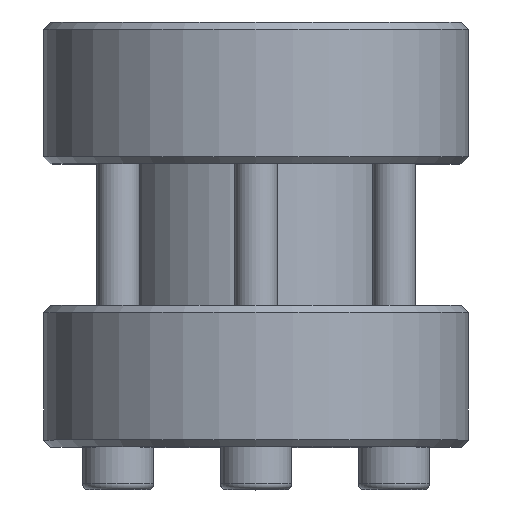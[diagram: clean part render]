
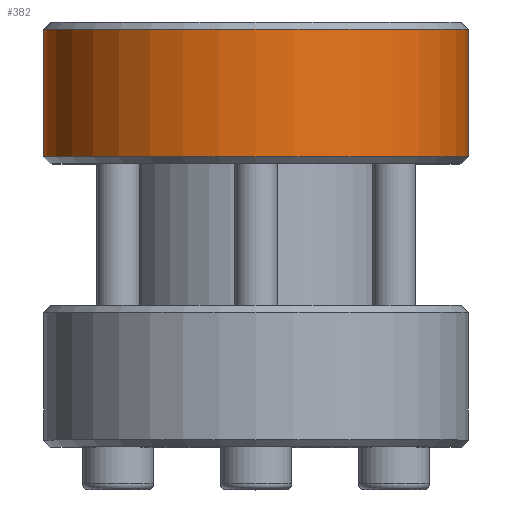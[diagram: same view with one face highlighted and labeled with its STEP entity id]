
A CAD part, top view. The second image highlights one B-rep face of the part: STEP entity #382.
In plain terms, the highlighted cylindrical face has radius 30 mm (diameter 60 mm), a full revolution.
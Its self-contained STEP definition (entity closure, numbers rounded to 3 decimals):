
#382 = ADVANCED_FACE( '', ( #632, #633 ), #634, .T. );
#632 = FACE_OUTER_BOUND( '', #802, .T. );
#633 = FACE_OUTER_BOUND( '', #803, .T. );
#634 = CYLINDRICAL_SURFACE( '', #804, 30. );
#802 = EDGE_LOOP( '', ( #1077 ) );
#803 = EDGE_LOOP( '', ( #1078 ) );
#804 = AXIS2_PLACEMENT_3D( '', #1079, #1080, #1081 );
#1077 = ORIENTED_EDGE( '', *, *, #1348, .T. );
#1078 = ORIENTED_EDGE( '', *, *, #1362, .T. );
#1079 = CARTESIAN_POINT( '', ( 0., -60., 0. ) );
#1080 = DIRECTION( '', ( 0., 1., 0. ) );
#1081 = DIRECTION( '', ( 0., 0., -1. ) );
#1348 = EDGE_CURVE( '', #1518, #1518, #1519, .T. );
#1362 = EDGE_CURVE( '', #1541, #1541, #1542, .T. );
#1518 = VERTEX_POINT( '', #1689 );
#1519 = CIRCLE( '', #1690, 30. );
#1541 = VERTEX_POINT( '', #1713 );
#1542 = CIRCLE( '', #1714, 30. );
#1689 = CARTESIAN_POINT( '', ( 0., 59., -30. ) );
#1690 = AXIS2_PLACEMENT_3D( '', #1807, #1808, #1809 );
#1713 = CARTESIAN_POINT( '', ( 0., 41., 30. ) );
#1714 = AXIS2_PLACEMENT_3D( '', #1847, #1848, #1849 );
#1807 = CARTESIAN_POINT( '', ( 0., 59., 0. ) );
#1808 = DIRECTION( '', ( 0., -1., 0. ) );
#1809 = DIRECTION( '', ( 0., 0., -1. ) );
#1847 = CARTESIAN_POINT( '', ( 0., 41., 0. ) );
#1848 = DIRECTION( '', ( 0., 1., 0. ) );
#1849 = DIRECTION( '', ( 0., 0., 1. ) );
